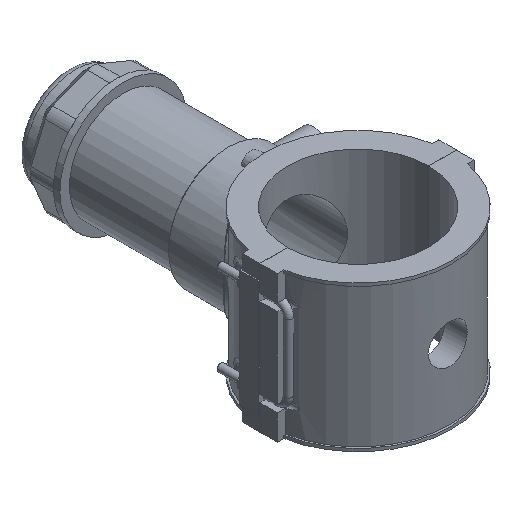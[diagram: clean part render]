
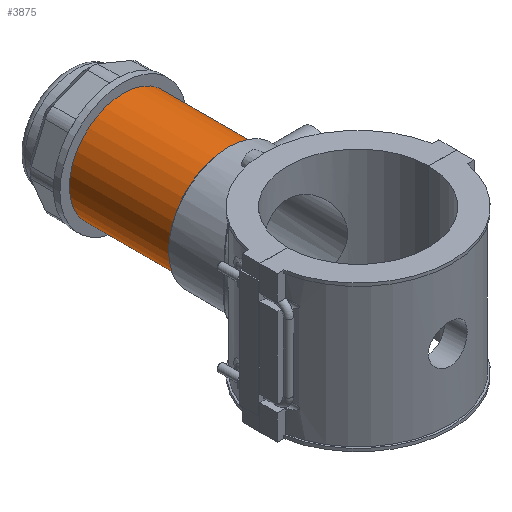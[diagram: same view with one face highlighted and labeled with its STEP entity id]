
A CAD part, isometric view. The second image highlights one B-rep face of the part: STEP entity #3875.
In plain terms, the highlighted cylindrical face has radius 43.643 mm (diameter 87.287 mm), a full revolution.
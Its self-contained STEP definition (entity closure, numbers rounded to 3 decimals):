
#57=FACE_BOUND('',#568,.T.);
#85=B_SPLINE_CURVE_WITH_KNOTS('',3,(#5797,#5798,#5799,#5800,#5801,#5802,
#5803,#5804,#5805,#5806),.UNSPECIFIED.,.F.,.F.,(4,2,2,2,4),(0.,0.418,
0.836,1.255,1.673),.UNSPECIFIED.);
#86=B_SPLINE_CURVE_WITH_KNOTS('',3,(#5807,#5808,#5809,#5810,#5811,#5812,
#5813,#5814,#5815,#5816,#5817,#5818,#5819,#5820,#5821,#5822,#5823,#5824,
#5825,#5826,#5827,#5828,#5829,#5830,#5831,#5832),.UNSPECIFIED.,.F.,.F.,
(4,2,2,2,2,2,2,2,2,2,2,2,4),(1.673,2.091,2.509,
2.927,3.346,3.764,4.182,4.6,
5.018,5.437,5.855,6.273,6.691),
 .UNSPECIFIED.);
#347=FACE_OUTER_BOUND('',#567,.T.);
#567=EDGE_LOOP('',(#2858,#2859,#2860,#2861,#2862,#2863));
#568=EDGE_LOOP('',(#2864,#2865));
#798=CIRCLE('',#4156,43.643);
#799=CIRCLE('',#4157,43.643);
#812=CIRCLE('',#4184,43.643);
#813=CIRCLE('',#4185,43.643);
#987=LINE('',#6082,#1326);
#1326=VECTOR('',#4773,43.643);
#1624=VERTEX_POINT('',#5794);
#1625=VERTEX_POINT('',#5796);
#1687=VERTEX_POINT('',#6023);
#1688=VERTEX_POINT('',#6024);
#1702=VERTEX_POINT('',#6078);
#1703=VERTEX_POINT('',#6079);
#2011=EDGE_CURVE('',#1625,#1624,#85,.T.);
#2012=EDGE_CURVE('',#1624,#1625,#86,.T.);
#2107=EDGE_CURVE('',#1687,#1688,#798,.T.);
#2108=EDGE_CURVE('',#1688,#1687,#799,.T.);
#2133=EDGE_CURVE('',#1702,#1703,#812,.T.);
#2134=EDGE_CURVE('',#1703,#1702,#813,.T.);
#2135=EDGE_CURVE('',#1703,#1688,#987,.T.);
#2858=ORIENTED_EDGE('',*,*,#2133,.F.);
#2859=ORIENTED_EDGE('',*,*,#2134,.F.);
#2860=ORIENTED_EDGE('',*,*,#2135,.T.);
#2861=ORIENTED_EDGE('',*,*,#2108,.T.);
#2862=ORIENTED_EDGE('',*,*,#2107,.T.);
#2863=ORIENTED_EDGE('',*,*,#2135,.F.);
#2864=ORIENTED_EDGE('',*,*,#2011,.T.);
#2865=ORIENTED_EDGE('',*,*,#2012,.T.);
#3776=CYLINDRICAL_SURFACE('',#4183,43.643);
#3875=ADVANCED_FACE('',(#347,#57),#3776,.T.);
#4156=AXIS2_PLACEMENT_3D('',#6025,#4701,#4702);
#4157=AXIS2_PLACEMENT_3D('',#6026,#4703,#4704);
#4183=AXIS2_PLACEMENT_3D('',#6077,#4767,#4768);
#4184=AXIS2_PLACEMENT_3D('',#6080,#4769,#4770);
#4185=AXIS2_PLACEMENT_3D('',#6081,#4771,#4772);
#4701=DIRECTION('center_axis',(0.,1.,0.));
#4702=DIRECTION('ref_axis',(1.,0.,0.));
#4703=DIRECTION('center_axis',(0.,1.,0.));
#4704=DIRECTION('ref_axis',(1.,0.,0.));
#4767=DIRECTION('center_axis',(0.,1.,0.));
#4768=DIRECTION('ref_axis',(0.,0.,1.));
#4769=DIRECTION('center_axis',(0.,1.,0.));
#4770=DIRECTION('ref_axis',(1.,0.,0.));
#4771=DIRECTION('center_axis',(0.,1.,0.));
#4772=DIRECTION('ref_axis',(1.,0.,0.));
#4773=DIRECTION('',(0.,-1.,0.));
#5794=CARTESIAN_POINT('',(43.643,111.024,0.));
#5796=CARTESIAN_POINT('',(42.221,122.074,-11.05));
#5797=CARTESIAN_POINT('Ctrl Pts',(42.221,122.074,-11.05));
#5798=CARTESIAN_POINT('Ctrl Pts',(42.221,120.68,-11.05));
#5799=CARTESIAN_POINT('Ctrl Pts',(42.297,119.197,-10.77));
#5800=CARTESIAN_POINT('Ctrl Pts',(42.569,116.477,-9.641));
#5801=CARTESIAN_POINT('Ctrl Pts',(42.76,115.238,-8.791));
#5802=CARTESIAN_POINT('Ctrl Pts',(43.116,113.283,-6.836));
#5803=CARTESIAN_POINT('Ctrl Pts',(43.304,112.433,-5.597));
#5804=CARTESIAN_POINT('Ctrl Pts',(43.57,111.304,-2.877));
#5805=CARTESIAN_POINT('Ctrl Pts',(43.643,111.024,-1.394));
#5806=CARTESIAN_POINT('Ctrl Pts',(43.643,111.024,0.));
#5807=CARTESIAN_POINT('Ctrl Pts',(43.643,111.024,0.));
#5808=CARTESIAN_POINT('Ctrl Pts',(43.643,111.024,1.394));
#5809=CARTESIAN_POINT('Ctrl Pts',(43.57,111.304,2.877));
#5810=CARTESIAN_POINT('Ctrl Pts',(43.304,112.433,5.597));
#5811=CARTESIAN_POINT('Ctrl Pts',(43.116,113.283,6.836));
#5812=CARTESIAN_POINT('Ctrl Pts',(42.76,115.238,8.791));
#5813=CARTESIAN_POINT('Ctrl Pts',(42.569,116.477,9.641));
#5814=CARTESIAN_POINT('Ctrl Pts',(42.297,119.197,10.77));
#5815=CARTESIAN_POINT('Ctrl Pts',(42.221,120.68,11.05));
#5816=CARTESIAN_POINT('Ctrl Pts',(42.221,123.468,11.05));
#5817=CARTESIAN_POINT('Ctrl Pts',(42.297,124.951,10.77));
#5818=CARTESIAN_POINT('Ctrl Pts',(42.569,127.671,9.641));
#5819=CARTESIAN_POINT('Ctrl Pts',(42.76,128.91,8.791));
#5820=CARTESIAN_POINT('Ctrl Pts',(43.116,130.865,6.836));
#5821=CARTESIAN_POINT('Ctrl Pts',(43.304,131.715,5.597));
#5822=CARTESIAN_POINT('Ctrl Pts',(43.57,132.844,2.877));
#5823=CARTESIAN_POINT('Ctrl Pts',(43.643,133.124,1.394));
#5824=CARTESIAN_POINT('Ctrl Pts',(43.643,133.124,-1.394));
#5825=CARTESIAN_POINT('Ctrl Pts',(43.57,132.844,-2.877));
#5826=CARTESIAN_POINT('Ctrl Pts',(43.304,131.715,-5.597));
#5827=CARTESIAN_POINT('Ctrl Pts',(43.116,130.865,-6.836));
#5828=CARTESIAN_POINT('Ctrl Pts',(42.76,128.91,-8.791));
#5829=CARTESIAN_POINT('Ctrl Pts',(42.569,127.671,-9.641));
#5830=CARTESIAN_POINT('Ctrl Pts',(42.297,124.951,-10.77));
#5831=CARTESIAN_POINT('Ctrl Pts',(42.221,123.468,-11.05));
#5832=CARTESIAN_POINT('Ctrl Pts',(42.221,122.074,-11.05));
#6023=CARTESIAN_POINT('',(0.,105.627,43.643));
#6024=CARTESIAN_POINT('',(0.,105.627,-43.643));
#6025=CARTESIAN_POINT('Origin',(0.,105.627,0.));
#6026=CARTESIAN_POINT('Origin',(0.,105.627,0.));
#6077=CARTESIAN_POINT('Origin',(0.,147.728,0.));
#6078=CARTESIAN_POINT('',(0.,189.829,43.643));
#6079=CARTESIAN_POINT('',(0.,189.829,-43.643));
#6080=CARTESIAN_POINT('Origin',(0.,189.829,0.));
#6081=CARTESIAN_POINT('Origin',(0.,189.829,0.));
#6082=CARTESIAN_POINT('',(0.,147.728,-43.643));
